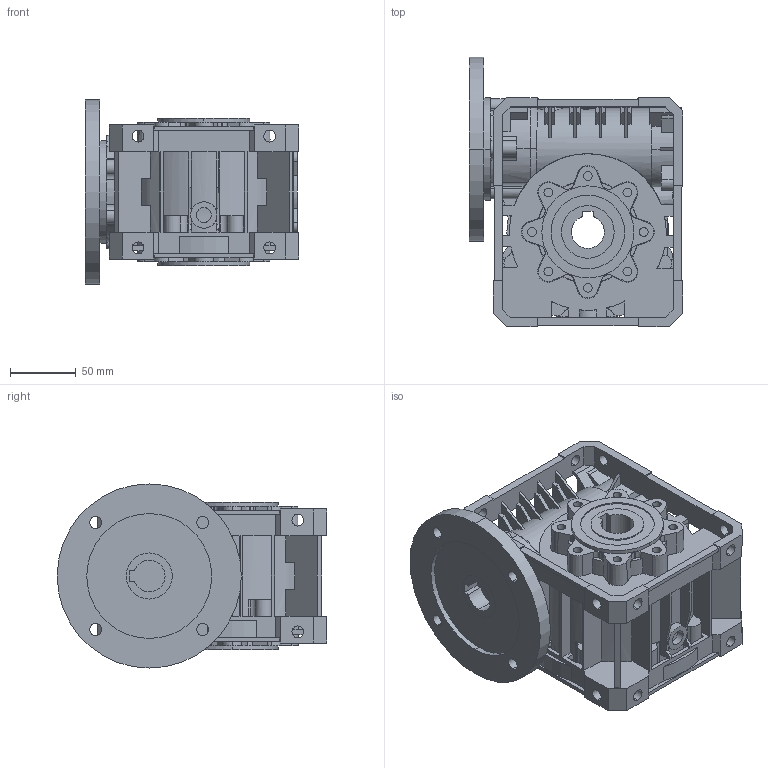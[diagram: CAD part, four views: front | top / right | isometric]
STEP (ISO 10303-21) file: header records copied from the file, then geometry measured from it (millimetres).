
FILE_DESCRIPTION (( 'STEP AP214' ), '1' );
FILE_NAME ('MU 63 NO PAM90B14 NO 0 D25 STANDARD 0 0.step', '2019-01-31T12:25:06', ( '' ), ( '' ), 'SwSTEP 2.0', 'SolidWorks 2015', '' );
FILE_SCHEMA (( 'AUTOMOTIVE_DESIGN' ));
Length unit declared in the file: millimetre
Products named in the file (7): OUTPUT SHAFT U-MU_U-MU 63 D.25; INPUT SHAFT MU 63_F.24; PAM MU 63_PAM 90 B14 ; FLANGE FP U-MU 63 - 20084888; FAM MU 63_D.140; BODY U-MU 63 - 20104781; MU 63 NO PAM90B14 NO 0 D25 STANDARD 0 0
Assembly tree (6 placements, depth 3):
  MU 63 NO PAM90B14 NO 0 D25 STANDARD 0 0
    BODY U-MU 63 - 20104781
    FLANGE FP U-MU 63 - 20084888
    OUTPUT SHAFT U-MU_U-MU 63 D.25
    PAM MU 63_PAM 90 B14 
      FAM MU 63_D.140
      INPUT SHAFT MU 63_F.24
Bounding box: 162 x 205 x 140 mm (x, y, z)
Volume: 1737802.9 mm3; surface area: 312978.7 mm2
Topology: 5 solids, 6 shells, 976 faces, 2944 edges, 1938 vertices
Faces by surface type: plane 550, cylinder 348, cone 78
Entity records: 34686 total; most frequent: CARTESIAN_POINT 6909, ORIENTED_EDGE 5840, DIRECTION 5733, EDGE_CURVE 2920, VERTEX_POINT 1938, AXIS2_PLACEMENT_3D 1935, VECTOR 1863, LINE 1863
